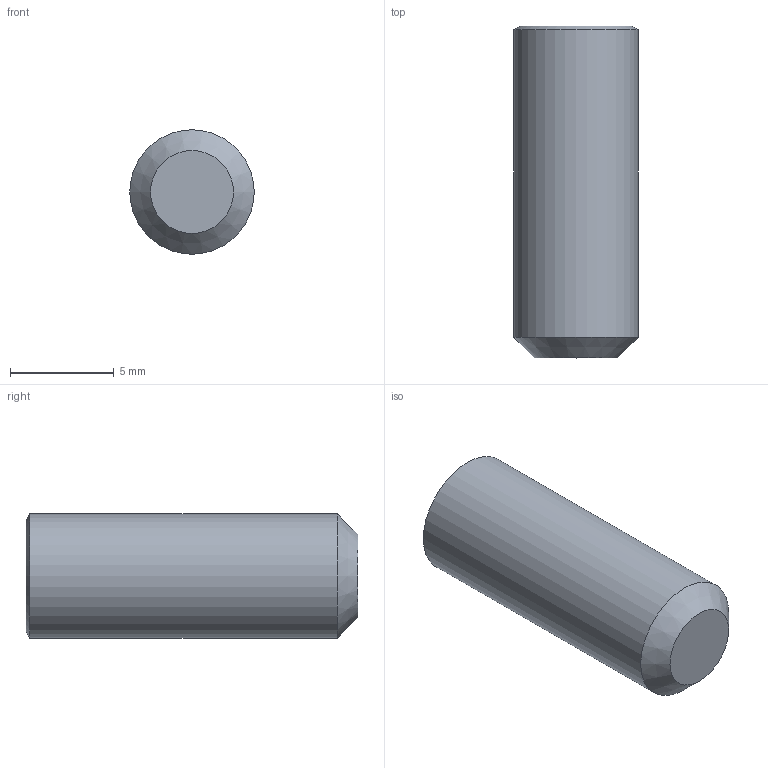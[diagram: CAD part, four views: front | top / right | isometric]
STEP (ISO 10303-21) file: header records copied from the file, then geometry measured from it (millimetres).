
FILE_DESCRIPTION(/* description */ (''),/* implementation_level */ '2;1');
FILE_NAME(/* name */ 'C:\Users\D\Documents\Inventor\各種小物\JIS\止めねじ\平先\M6\M6x16.stp',/* time_stamp */ '2022-06-23T14:26:10+09:00',/* author */ ('D'),/* organization */ (''),/* preprocessor_version */ 'ST-DEVELOPER v18',/* originating_system */ 'Autodesk Inventor 2020',/* authorisation */ '');
FILE_SCHEMA (('AUTOMOTIVE_DESIGN { 1 0 10303 214 3 1 1 }'));
Length unit declared in the file: millimetre
Products named in the file (1): M1.6x2
Bounding box: 6 x 16 x 6 mm (x, y, z)
Volume: 413.1 mm3; surface area: 381.8 mm2
Topology: 1 solids, 1 shells, 12 faces, 28 edges, 18 vertices
Faces by surface type: plane 8, cone 3, cylinder 1
Full cylindrical faces by diameter (mm): 6 x1
Entity records: 369 total; most frequent: CARTESIAN_POINT 72, ORIENTED_EDGE 54, DIRECTION 50, EDGE_CURVE 27, VERTEX_POINT 18, AXIS2_PLACEMENT_3D 17, LINE 16, VECTOR 16
